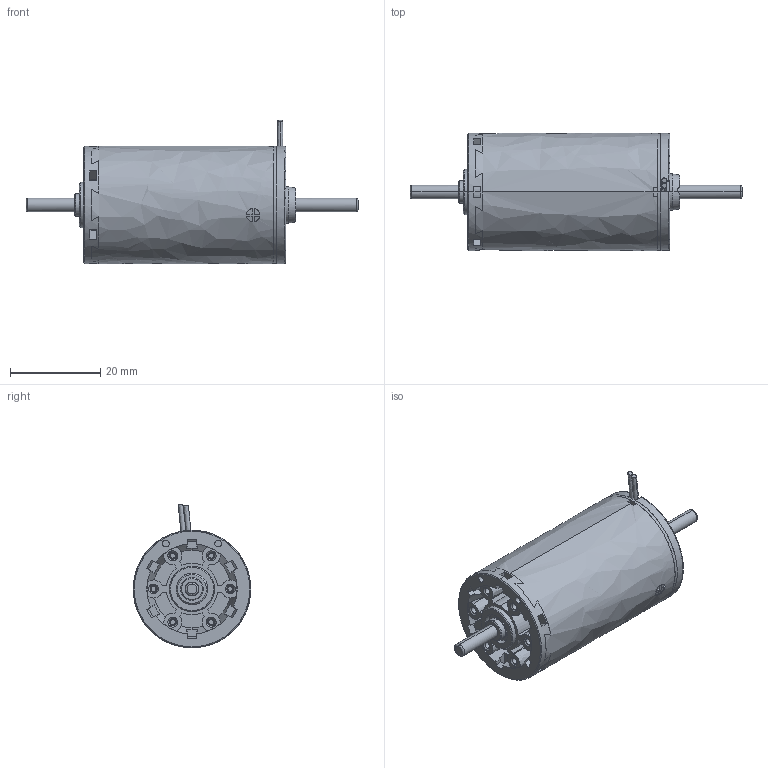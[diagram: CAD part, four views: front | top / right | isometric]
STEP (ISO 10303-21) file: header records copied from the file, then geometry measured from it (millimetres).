
FILE_DESCRIPTION(/* description */ (''),/* implementation_level */ '2;1');
FILE_NAME(/* name */ '09_110KABEL',/* time_stamp */ '2010-03-11T15:01:33+01:00',/* author */ (''),/* organization */ (''),/* preprocessor_version */ 'ST-DEVELOPER v8',/* originating_system */ '',/* authorisation */ '');
FILE_SCHEMA (('AUTOMOTIVE_DESIGN'));
Length unit declared in the file: millimetre
Products named in the file (1): 1
Bounding box: 73.5 x 26 x 31.75 mm (x, y, z)
Surface area: 6119.2 mm2 (no closed solid volume)
Topology: 0 solids, 1 shells, 343 faces, 1040 edges, 717 vertices
Faces by surface type: bspline 343
Entity records: 12596 total; most frequent: CARTESIAN_POINT 6904, ORIENTED_EDGE 2063, EDGE_CURVE 1038, VERTEX_POINT 717, B_SPLINE_CURVE_WITH_KNOTS 594, EDGE_LOOP 374, ADVANCED_FACE 341, FACE_OUTER_BOUND 341
